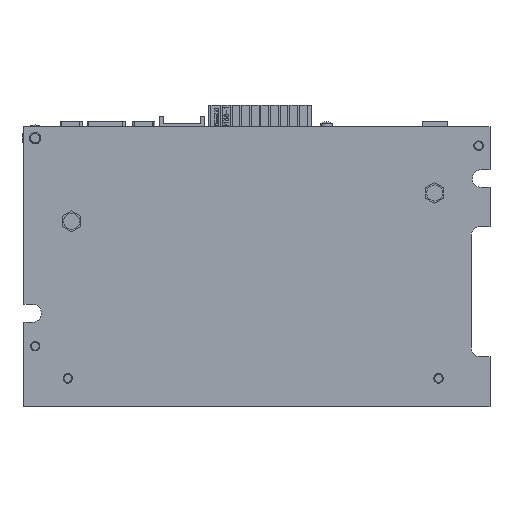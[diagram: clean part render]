
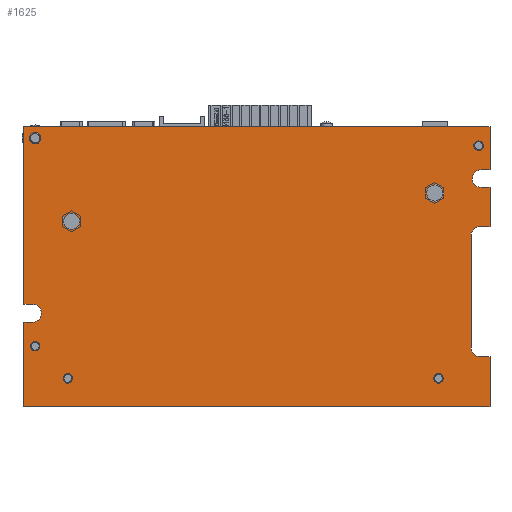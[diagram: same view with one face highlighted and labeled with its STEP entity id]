
A CAD part, top view. The second image highlights one B-rep face of the part: STEP entity #1625.
In plain terms, the highlighted planar face has unit normal (0, 0, 1).
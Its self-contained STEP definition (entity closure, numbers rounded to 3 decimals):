
#59=DIRECTION('',(0.,-1.,0.));
#60=VECTOR('',#59,22.35);
#61=CARTESIAN_POINT('',(-61.6,22.35,0.));
#62=LINE('',#61,#60);
#143=DIRECTION('',(0.,-1.,0.));
#144=VECTOR('',#143,46.95);
#145=CARTESIAN_POINT('',(-61.6,74.,0.));
#146=LINE('',#145,#144);
#164=DIRECTION('',(1.,0.,0.));
#165=VECTOR('',#164,123.2);
#166=CARTESIAN_POINT('',(-61.6,0.,0.));
#167=LINE('',#166,#165);
#240=CARTESIAN_POINT('',(-50.,7.5,0.));
#241=DIRECTION('',(0.,0.,1.));
#242=DIRECTION('',(1.,0.,0.));
#243=AXIS2_PLACEMENT_3D('',#240,#241,#242);
#248=CARTESIAN_POINT('',(-50.,7.5,0.));
#249=DIRECTION('',(0.,0.,1.));
#250=DIRECTION('',(-1.,0.,0.));
#251=AXIS2_PLACEMENT_3D('',#248,#249,#250);
#256=CARTESIAN_POINT('',(48.,7.5,0.));
#257=DIRECTION('',(0.,0.,1.));
#258=DIRECTION('',(1.,0.,0.));
#259=AXIS2_PLACEMENT_3D('',#256,#257,#258);
#264=CARTESIAN_POINT('',(48.,7.5,0.));
#265=DIRECTION('',(0.,0.,1.));
#266=DIRECTION('',(-1.,0.,0.));
#267=AXIS2_PLACEMENT_3D('',#264,#265,#266);
#272=CARTESIAN_POINT('',(-49.,49.,0.));
#273=DIRECTION('',(0.,0.,1.));
#274=DIRECTION('',(1.,0.,0.));
#275=AXIS2_PLACEMENT_3D('',#272,#273,#274);
#280=CARTESIAN_POINT('',(-49.,49.,0.));
#281=DIRECTION('',(0.,0.,1.));
#282=DIRECTION('',(-1.,0.,0.));
#283=AXIS2_PLACEMENT_3D('',#280,#281,#282);
#288=CARTESIAN_POINT('',(47.,56.5,0.));
#289=DIRECTION('',(0.,0.,1.));
#290=DIRECTION('',(1.,0.,0.));
#291=AXIS2_PLACEMENT_3D('',#288,#289,#290);
#296=CARTESIAN_POINT('',(47.,56.5,0.));
#297=DIRECTION('',(0.,0.,1.));
#298=DIRECTION('',(-1.,0.,0.));
#299=AXIS2_PLACEMENT_3D('',#296,#297,#298);
#304=CARTESIAN_POINT('',(-58.6,71.,0.));
#305=DIRECTION('',(0.,0.,1.));
#306=DIRECTION('',(1.,0.,0.));
#307=AXIS2_PLACEMENT_3D('',#304,#305,#306);
#312=CARTESIAN_POINT('',(-58.6,71.,0.));
#313=DIRECTION('',(0.,0.,1.));
#314=DIRECTION('',(-1.,0.,0.));
#315=AXIS2_PLACEMENT_3D('',#312,#313,#314);
#320=CARTESIAN_POINT('',(-58.6,16.,0.));
#321=DIRECTION('',(0.,0.,1.));
#322=DIRECTION('',(1.,0.,0.));
#323=AXIS2_PLACEMENT_3D('',#320,#321,#322);
#328=CARTESIAN_POINT('',(-58.6,16.,0.));
#329=DIRECTION('',(0.,0.,1.));
#330=DIRECTION('',(-1.,0.,0.));
#331=AXIS2_PLACEMENT_3D('',#328,#329,#330);
#336=CARTESIAN_POINT('',(58.6,69.,0.));
#337=DIRECTION('',(0.,0.,1.));
#338=DIRECTION('',(1.,0.,0.));
#339=AXIS2_PLACEMENT_3D('',#336,#337,#338);
#344=CARTESIAN_POINT('',(58.6,69.,0.));
#345=DIRECTION('',(0.,0.,1.));
#346=DIRECTION('',(-1.,0.,0.));
#347=AXIS2_PLACEMENT_3D('',#344,#345,#346);
#352=DIRECTION('',(-1.,0.,0.));
#353=VECTOR('',#352,2.65);
#354=CARTESIAN_POINT('',(61.6,47.6,0.));
#355=LINE('',#354,#353);
#359=DIRECTION('',(0.,1.,0.));
#360=VECTOR('',#359,29.7);
#361=CARTESIAN_POINT('',(56.6,15.55,0.));
#362=LINE('',#361,#360);
#366=DIRECTION('',(-1.,0.,0.));
#367=VECTOR('',#366,2.65);
#368=CARTESIAN_POINT('',(61.6,13.2,0.));
#369=LINE('',#368,#367);
#373=DIRECTION('',(1.,0.,0.));
#374=VECTOR('',#373,2.3);
#375=CARTESIAN_POINT('',(-61.6,22.35,0.));
#376=LINE('',#375,#374);
#380=CARTESIAN_POINT('',(-59.3,24.7,0.));
#381=DIRECTION('',(0.,0.,-1.));
#382=DIRECTION('',(0.,1.,0.));
#383=AXIS2_PLACEMENT_3D('',#380,#381,#382);
#388=DIRECTION('',(1.,0.,0.));
#389=VECTOR('',#388,2.3);
#390=CARTESIAN_POINT('',(-61.6,27.05,0.));
#391=LINE('',#390,#389);
#395=DIRECTION('',(1.,0.,0.));
#396=VECTOR('',#395,123.2);
#397=CARTESIAN_POINT('',(-61.6,74.,0.));
#398=LINE('',#397,#396);
#402=DIRECTION('',(-1.,0.,0.));
#403=VECTOR('',#402,2.3);
#404=CARTESIAN_POINT('',(61.6,62.65,0.));
#405=LINE('',#404,#403);
#409=CARTESIAN_POINT('',(59.3,60.3,0.));
#410=DIRECTION('',(0.,0.,-1.));
#411=DIRECTION('',(0.,-1.,0.));
#412=AXIS2_PLACEMENT_3D('',#409,#410,#411);
#417=DIRECTION('',(-1.,0.,0.));
#418=VECTOR('',#417,2.3);
#419=CARTESIAN_POINT('',(61.6,57.95,0.));
#420=LINE('',#419,#418);
#616=DIRECTION('',(0.,-1.,0.));
#617=VECTOR('',#616,11.35);
#618=CARTESIAN_POINT('',(61.6,74.,0.));
#619=LINE('',#618,#617);
#707=DIRECTION('',(0.,-1.,0.));
#708=VECTOR('',#707,13.2);
#709=CARTESIAN_POINT('',(61.6,13.2,0.));
#710=LINE('',#709,#708);
#721=DIRECTION('',(0.,-1.,0.));
#722=VECTOR('',#721,10.35);
#723=CARTESIAN_POINT('',(61.6,57.95,0.));
#724=LINE('',#723,#722);
#963=CARTESIAN_POINT('',(58.95,45.25,0.));
#964=DIRECTION('',(0.,0.,-1.));
#965=DIRECTION('',(-1.,0.,0.));
#966=AXIS2_PLACEMENT_3D('',#963,#964,#965);
#994=CARTESIAN_POINT('',(58.95,15.55,0.));
#995=DIRECTION('',(0.,0.,-1.));
#996=DIRECTION('',(0.,-1.,0.));
#997=AXIS2_PLACEMENT_3D('',#994,#995,#996);
#1208=CARTESIAN_POINT('',(-61.6,74.,0.));
#1210=VERTEX_POINT('',#1208);
#1216=CARTESIAN_POINT('',(61.6,74.,0.));
#1218=VERTEX_POINT('',#1216);
#1219=CARTESIAN_POINT('',(-61.6,0.,0.));
#1220=CARTESIAN_POINT('',(61.6,0.,0.));
#1221=VERTEX_POINT('',#1219);
#1222=VERTEX_POINT('',#1220);
#1223=CARTESIAN_POINT('',(-48.75,7.5,0.));
#1224=CARTESIAN_POINT('',(-51.25,7.5,0.));
#1225=VERTEX_POINT('',#1223);
#1226=VERTEX_POINT('',#1224);
#1231=CARTESIAN_POINT('',(49.25,7.5,0.));
#1232=CARTESIAN_POINT('',(46.75,7.5,0.));
#1233=VERTEX_POINT('',#1231);
#1234=VERTEX_POINT('',#1232);
#1243=CARTESIAN_POINT('',(-46.875,49.,0.));
#1244=CARTESIAN_POINT('',(-51.125,49.,0.));
#1245=VERTEX_POINT('',#1243);
#1246=VERTEX_POINT('',#1244);
#1251=CARTESIAN_POINT('',(49.125,56.5,0.));
#1252=CARTESIAN_POINT('',(44.875,56.5,0.));
#1253=VERTEX_POINT('',#1251);
#1254=VERTEX_POINT('',#1252);
#1269=CARTESIAN_POINT('',(-57.1,71.,0.));
#1270=CARTESIAN_POINT('',(-60.1,71.,0.));
#1271=VERTEX_POINT('',#1269);
#1272=VERTEX_POINT('',#1270);
#1277=CARTESIAN_POINT('',(-57.35,16.,0.));
#1278=CARTESIAN_POINT('',(-59.85,16.,0.));
#1279=VERTEX_POINT('',#1277);
#1280=VERTEX_POINT('',#1278);
#1285=CARTESIAN_POINT('',(59.85,69.,0.));
#1286=CARTESIAN_POINT('',(57.35,69.,0.));
#1287=VERTEX_POINT('',#1285);
#1288=VERTEX_POINT('',#1286);
#1289=CARTESIAN_POINT('',(-61.6,27.05,0.));
#1291=VERTEX_POINT('',#1289);
#1293=CARTESIAN_POINT('',(-61.6,22.35,0.));
#1295=VERTEX_POINT('',#1293);
#1301=CARTESIAN_POINT('',(-59.3,27.05,0.));
#1302=VERTEX_POINT('',#1301);
#1303=CARTESIAN_POINT('',(-59.3,22.35,0.));
#1304=VERTEX_POINT('',#1303);
#1313=CARTESIAN_POINT('',(59.3,57.95,0.));
#1314=VERTEX_POINT('',#1313);
#1315=CARTESIAN_POINT('',(59.3,62.65,0.));
#1316=VERTEX_POINT('',#1315);
#1317=CARTESIAN_POINT('',(61.6,57.95,0.));
#1318=VERTEX_POINT('',#1317);
#1319=CARTESIAN_POINT('',(61.6,62.65,0.));
#1320=VERTEX_POINT('',#1319);
#1369=CARTESIAN_POINT('',(61.6,13.2,0.));
#1371=VERTEX_POINT('',#1369);
#1373=CARTESIAN_POINT('',(61.6,47.6,0.));
#1375=VERTEX_POINT('',#1373);
#1398=CARTESIAN_POINT('',(56.6,45.25,0.));
#1400=VERTEX_POINT('',#1398);
#1403=CARTESIAN_POINT('',(56.6,15.55,0.));
#1404=VERTEX_POINT('',#1403);
#1407=CARTESIAN_POINT('',(58.95,47.6,0.));
#1408=VERTEX_POINT('',#1407);
#1415=CARTESIAN_POINT('',(58.95,13.2,0.));
#1416=VERTEX_POINT('',#1415);
#1543=CARTESIAN_POINT('',(-61.6,74.,0.));
#1544=DIRECTION('',(0.,0.,1.));
#1545=DIRECTION('',(0.,-1.,0.));
#1546=AXIS2_PLACEMENT_3D('',#1543,#1544,#1545);
#1547=PLANE('',#1546);
#1549=ORIENTED_EDGE('',*,*,#1548,.T.);
#1551=ORIENTED_EDGE('',*,*,#1550,.F.);
#1553=ORIENTED_EDGE('',*,*,#1552,.F.);
#1555=ORIENTED_EDGE('',*,*,#1554,.F.);
#1557=ORIENTED_EDGE('',*,*,#1556,.F.);
#1559=ORIENTED_EDGE('',*,*,#1558,.T.);
#1560=ORIENTED_EDGE('',*,*,#1509,.F.);
#1561=ORIENTED_EDGE('',*,*,#1440,.F.);
#1563=ORIENTED_EDGE('',*,*,#1562,.T.);
#1565=ORIENTED_EDGE('',*,*,#1564,.F.);
#1567=ORIENTED_EDGE('',*,*,#1566,.F.);
#1568=ORIENTED_EDGE('',*,*,#1480,.F.);
#1570=ORIENTED_EDGE('',*,*,#1569,.T.);
#1572=ORIENTED_EDGE('',*,*,#1571,.T.);
#1574=ORIENTED_EDGE('',*,*,#1573,.T.);
#1576=ORIENTED_EDGE('',*,*,#1575,.F.);
#1578=ORIENTED_EDGE('',*,*,#1577,.F.);
#1580=ORIENTED_EDGE('',*,*,#1579,.T.);
#1581=EDGE_LOOP('',(#1549,#1551,#1553,#1555,#1557,#1559,#1560,#1561,#1563,#1565,
#1567,#1568,#1570,#1572,#1574,#1576,#1578,#1580));
#1582=FACE_OUTER_BOUND('',#1581,.F.);
#1584=ORIENTED_EDGE('',*,*,#1583,.T.);
#1586=ORIENTED_EDGE('',*,*,#1585,.T.);
#1587=EDGE_LOOP('',(#1584,#1586));
#1588=FACE_BOUND('',#1587,.F.);
#1590=ORIENTED_EDGE('',*,*,#1589,.T.);
#1592=ORIENTED_EDGE('',*,*,#1591,.T.);
#1593=EDGE_LOOP('',(#1590,#1592));
#1594=FACE_BOUND('',#1593,.F.);
#1596=ORIENTED_EDGE('',*,*,#1595,.T.);
#1598=ORIENTED_EDGE('',*,*,#1597,.T.);
#1599=EDGE_LOOP('',(#1596,#1598));
#1600=FACE_BOUND('',#1599,.F.);
#1602=ORIENTED_EDGE('',*,*,#1601,.T.);
#1604=ORIENTED_EDGE('',*,*,#1603,.T.);
#1605=EDGE_LOOP('',(#1602,#1604));
#1606=FACE_BOUND('',#1605,.F.);
#1608=ORIENTED_EDGE('',*,*,#1607,.T.);
#1610=ORIENTED_EDGE('',*,*,#1609,.T.);
#1611=EDGE_LOOP('',(#1608,#1610));
#1612=FACE_BOUND('',#1611,.F.);
#1614=ORIENTED_EDGE('',*,*,#1613,.T.);
#1616=ORIENTED_EDGE('',*,*,#1615,.T.);
#1617=EDGE_LOOP('',(#1614,#1616));
#1618=FACE_BOUND('',#1617,.F.);
#1620=ORIENTED_EDGE('',*,*,#1619,.T.);
#1622=ORIENTED_EDGE('',*,*,#1621,.T.);
#1623=EDGE_LOOP('',(#1620,#1622));
#1624=FACE_BOUND('',#1623,.F.);
#244=CIRCLE('',#243,1.25);
#252=CIRCLE('',#251,1.25);
#260=CIRCLE('',#259,1.25);
#268=CIRCLE('',#267,1.25);
#276=CIRCLE('',#275,2.125);
#284=CIRCLE('',#283,2.125);
#292=CIRCLE('',#291,2.125);
#300=CIRCLE('',#299,2.125);
#308=CIRCLE('',#307,1.5);
#316=CIRCLE('',#315,1.5);
#324=CIRCLE('',#323,1.25);
#332=CIRCLE('',#331,1.25);
#340=CIRCLE('',#339,1.25);
#348=CIRCLE('',#347,1.25);
#384=CIRCLE('',#383,2.35);
#413=CIRCLE('',#412,2.35);
#967=CIRCLE('',#966,2.35);
#998=CIRCLE('',#997,2.35);
#1440=EDGE_CURVE('',#1295,#1221,#62,.T.);
#1480=EDGE_CURVE('',#1210,#1291,#146,.T.);
#1509=EDGE_CURVE('',#1221,#1222,#167,.T.);
#1548=EDGE_CURVE('',#1375,#1408,#355,.T.);
#1550=EDGE_CURVE('',#1400,#1408,#967,.T.);
#1552=EDGE_CURVE('',#1404,#1400,#362,.T.);
#1554=EDGE_CURVE('',#1416,#1404,#998,.T.);
#1556=EDGE_CURVE('',#1371,#1416,#369,.T.);
#1558=EDGE_CURVE('',#1371,#1222,#710,.T.);
#1562=EDGE_CURVE('',#1295,#1304,#376,.T.);
#1564=EDGE_CURVE('',#1302,#1304,#384,.T.);
#1566=EDGE_CURVE('',#1291,#1302,#391,.T.);
#1569=EDGE_CURVE('',#1210,#1218,#398,.T.);
#1571=EDGE_CURVE('',#1218,#1320,#619,.T.);
#1573=EDGE_CURVE('',#1320,#1316,#405,.T.);
#1575=EDGE_CURVE('',#1314,#1316,#413,.T.);
#1577=EDGE_CURVE('',#1318,#1314,#420,.T.);
#1579=EDGE_CURVE('',#1318,#1375,#724,.T.);
#1583=EDGE_CURVE('',#1233,#1234,#260,.T.);
#1585=EDGE_CURVE('',#1234,#1233,#268,.T.);
#1589=EDGE_CURVE('',#1245,#1246,#276,.T.);
#1591=EDGE_CURVE('',#1246,#1245,#284,.T.);
#1595=EDGE_CURVE('',#1253,#1254,#292,.T.);
#1597=EDGE_CURVE('',#1254,#1253,#300,.T.);
#1601=EDGE_CURVE('',#1271,#1272,#308,.T.);
#1603=EDGE_CURVE('',#1272,#1271,#316,.T.);
#1607=EDGE_CURVE('',#1279,#1280,#324,.T.);
#1609=EDGE_CURVE('',#1280,#1279,#332,.T.);
#1613=EDGE_CURVE('',#1287,#1288,#340,.T.);
#1615=EDGE_CURVE('',#1288,#1287,#348,.T.);
#1619=EDGE_CURVE('',#1225,#1226,#244,.T.);
#1621=EDGE_CURVE('',#1226,#1225,#252,.T.);
#1625=ADVANCED_FACE('',(#1582,#1588,#1594,#1600,#1606,#1612,#1618,#1624),#1547,
.T.);
